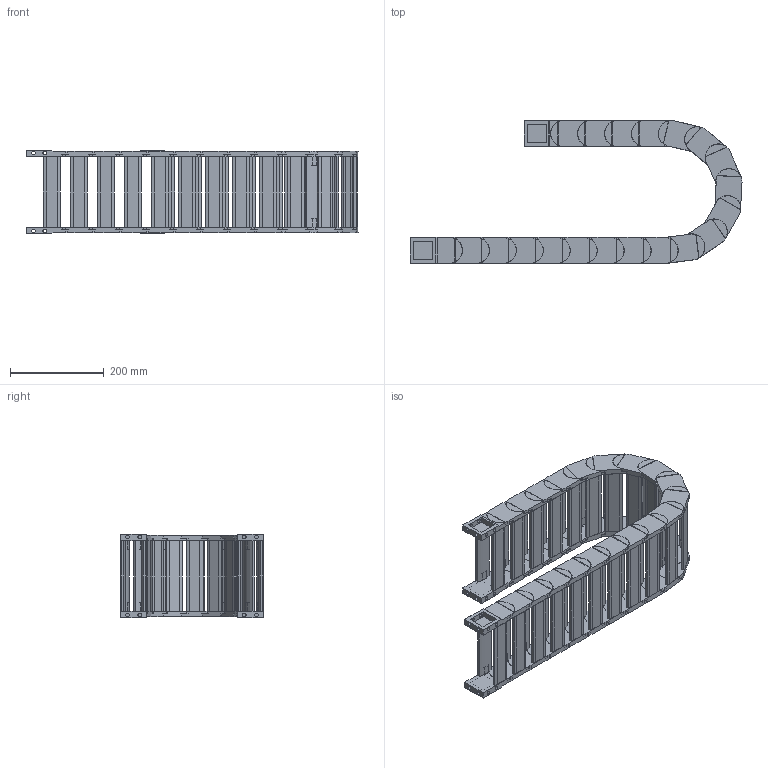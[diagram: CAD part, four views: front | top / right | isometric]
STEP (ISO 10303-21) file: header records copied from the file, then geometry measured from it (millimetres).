
FILE_DESCRIPTION((''),'2;1');
FILE_NAME('HD35-R125-ZPT_ASM','2022-06-17T14:08:10',('admin'),(''),'CREO PARAMETRIC BY PTC INC, 2021164','CREO PARAMETRIC BY PTC INC, 2021164','');
FILE_SCHEMA(('CONFIG_CONTROL_DESIGN','GEOMETRIC_VALIDATION_PROPERTIES_MIM'));
Length unit declared in the file: millimetre
Products named in the file (6): HD35; 35-600001; HD35_ASM; 35-TL_11; 35-WL; HD35-R125-ZPT_ASM
Assembly tree (25 placements, depth 3):
  HD35-R125-ZPT_ASM
    HD35_ASM  x19
      HD35
      35-600001
    35-TL_11
    35-WL
    35-600001  x2
Bounding box: 707.96 x 304.27 x 178.3 mm (x, y, z)
Volume: 3542504.8 mm3; surface area: 1221695.4 mm2
Topology: 84 solids, 84 shells, 1570 faces, 4178 edges, 2864 vertices
Faces by surface type: plane 1068, cylinder 502
Entity records: 9419 total; most frequent: DIRECTION 1424, CARTESIAN_POINT 1414, ORIENTED_EDGE 1300, EDGE_CURVE 650, AXIS2_PLACEMENT_3D 507, VERTEX_POINT 440, VECTOR 410, LINE 410
